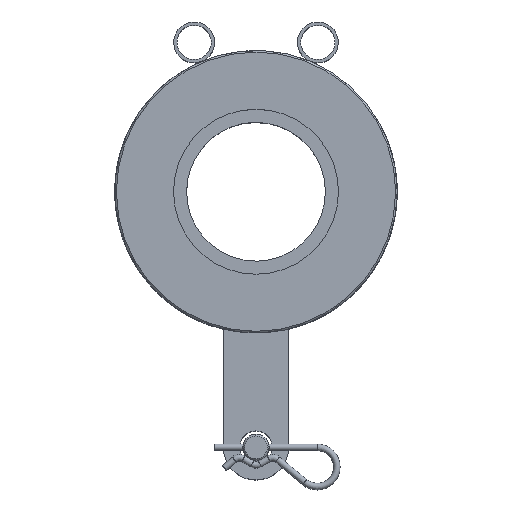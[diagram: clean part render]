
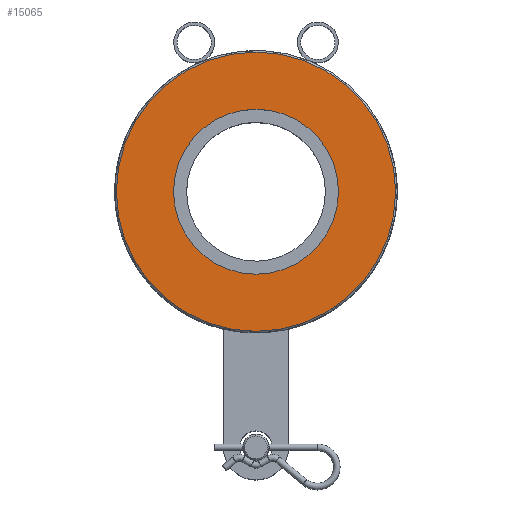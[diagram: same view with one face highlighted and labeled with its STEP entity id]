
A CAD part, top view. The second image highlights one B-rep face of the part: STEP entity #15065.
In plain terms, the highlighted planar face has unit normal (0, 0, 1).
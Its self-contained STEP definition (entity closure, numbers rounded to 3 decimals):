
#488=FACE_BOUND('',#3342,.T.);
#1616=PLANE('',#15896);
#2437=FACE_OUTER_BOUND('',#3341,.T.);
#3341=EDGE_LOOP('',(#13938));
#3342=EDGE_LOOP('',(#13939));
#5828=CIRCLE('',#15892,50.5);
#5829=CIRCLE('',#15894,85.5);
#7309=VERTEX_POINT('',#35956);
#7310=VERTEX_POINT('',#35960);
#9525=EDGE_CURVE('',#7309,#7309,#5828,.T.);
#9527=EDGE_CURVE('',#7310,#7310,#5829,.T.);
#13938=ORIENTED_EDGE('',*,*,#9527,.F.);
#13939=ORIENTED_EDGE('',*,*,#9525,.T.);
#15065=ADVANCED_FACE('',(#2437,#488),#1616,.T.);
#15892=AXIS2_PLACEMENT_3D('',#35957,#18521,#18522);
#15894=AXIS2_PLACEMENT_3D('',#35961,#18526,#18527);
#15896=AXIS2_PLACEMENT_3D('',#35964,#18531,#18532);
#18521=DIRECTION('center_axis',(0.,0.,
-1.));
#18522=DIRECTION('ref_axis',(-1.,0.,0.));
#18526=DIRECTION('center_axis',(0.,0.,
-1.));
#18527=DIRECTION('ref_axis',(-1.,0.,0.));
#18531=DIRECTION('center_axis',(0.,0.,
1.));
#18532=DIRECTION('ref_axis',(-1.,0.,0.));
#35956=CARTESIAN_POINT('',(50.5,0.,92.));
#35957=CARTESIAN_POINT('Origin',(0.,0.,
92.));
#35960=CARTESIAN_POINT('',(85.5,0.,92.));
#35961=CARTESIAN_POINT('Origin',(0.,0.,
92.));
#35964=CARTESIAN_POINT('Origin',(0.,0.,
92.));
